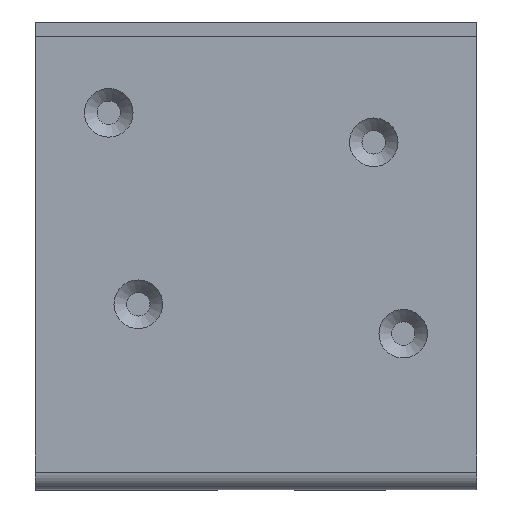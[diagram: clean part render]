
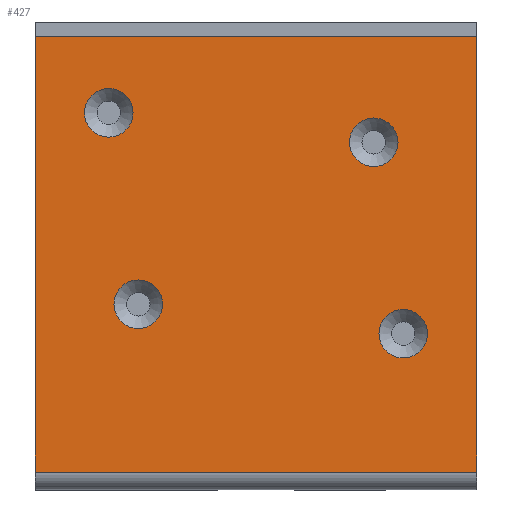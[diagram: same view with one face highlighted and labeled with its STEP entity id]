
A CAD part, top view. The second image highlights one B-rep face of the part: STEP entity #427.
In plain terms, the highlighted planar face has unit normal (0, 0, 1).
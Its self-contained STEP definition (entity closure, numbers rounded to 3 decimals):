
#27=FACE_BOUND('',#106,.T.);
#28=FACE_BOUND('',#107,.T.);
#29=FACE_BOUND('',#108,.T.);
#30=FACE_BOUND('',#109,.T.);
#47=CIRCLE('',#460,8.25);
#48=CIRCLE('',#461,8.25);
#49=CIRCLE('',#462,8.25);
#50=CIRCLE('',#463,8.25);
#79=FACE_OUTER_BOUND('',#105,.T.);
#105=EDGE_LOOP('',(#357,#358,#359,#360));
#106=EDGE_LOOP('',(#361));
#107=EDGE_LOOP('',(#362));
#108=EDGE_LOOP('',(#363));
#109=EDGE_LOOP('',(#364));
#153=LINE('',#661,#189);
#161=LINE('',#682,#197);
#164=LINE('',#688,#200);
#165=LINE('',#689,#201);
#189=VECTOR('',#524,150.);
#197=VECTOR('',#552,148.);
#200=VECTOR('',#557,148.);
#201=VECTOR('',#558,150.);
#221=VERTEX_POINT('',#658);
#222=VERTEX_POINT('',#660);
#225=VERTEX_POINT('',#681);
#227=VERTEX_POINT('',#687);
#228=VERTEX_POINT('',#690);
#229=VERTEX_POINT('',#692);
#230=VERTEX_POINT('',#694);
#231=VERTEX_POINT('',#696);
#262=EDGE_CURVE('',#222,#221,#153,.T.);
#273=EDGE_CURVE('',#222,#225,#161,.T.);
#276=EDGE_CURVE('',#227,#221,#164,.T.);
#277=EDGE_CURVE('',#225,#227,#165,.T.);
#278=EDGE_CURVE('',#228,#228,#47,.T.);
#279=EDGE_CURVE('',#229,#229,#48,.T.);
#280=EDGE_CURVE('',#230,#230,#49,.T.);
#281=EDGE_CURVE('',#231,#231,#50,.T.);
#357=ORIENTED_EDGE('',*,*,#262,.T.);
#358=ORIENTED_EDGE('',*,*,#276,.F.);
#359=ORIENTED_EDGE('',*,*,#277,.F.);
#360=ORIENTED_EDGE('',*,*,#273,.F.);
#361=ORIENTED_EDGE('',*,*,#278,.T.);
#362=ORIENTED_EDGE('',*,*,#279,.T.);
#363=ORIENTED_EDGE('',*,*,#280,.T.);
#364=ORIENTED_EDGE('',*,*,#281,.T.);
#409=PLANE('',#459);
#427=ADVANCED_FACE('',(#79,#27,#28,#29,#30),#409,.T.);
#459=AXIS2_PLACEMENT_3D('',#686,#555,#556);
#460=AXIS2_PLACEMENT_3D('',#691,#559,#560);
#461=AXIS2_PLACEMENT_3D('',#693,#561,#562);
#462=AXIS2_PLACEMENT_3D('',#695,#563,#564);
#463=AXIS2_PLACEMENT_3D('',#697,#565,#566);
#524=DIRECTION('',(1.,0.,0.));
#552=DIRECTION('',(0.,1.,0.));
#555=DIRECTION('center_axis',(0.,0.,1.));
#556=DIRECTION('ref_axis',(1.,0.,0.));
#557=DIRECTION('',(0.,-1.,0.));
#558=DIRECTION('',(1.,0.,0.));
#559=DIRECTION('center_axis',(0.,0.,-1.));
#560=DIRECTION('ref_axis',(1.,0.,0.));
#561=DIRECTION('center_axis',(0.,0.,-1.));
#562=DIRECTION('ref_axis',(1.,0.,0.));
#563=DIRECTION('center_axis',(0.,0.,-1.));
#564=DIRECTION('ref_axis',(1.,0.,0.));
#565=DIRECTION('center_axis',(0.,0.,-1.));
#566=DIRECTION('ref_axis',(1.,0.,0.));
#658=CARTESIAN_POINT('',(134.,-12.,5.));
#660=CARTESIAN_POINT('',(-16.,-12.,5.));
#661=CARTESIAN_POINT('',(21.5,-12.,5.));
#681=CARTESIAN_POINT('',(-16.,136.,5.));
#682=CARTESIAN_POINT('',(-16.,-18.,5.));
#686=CARTESIAN_POINT('Origin',(59.,59.,5.));
#687=CARTESIAN_POINT('',(134.,136.,5.));
#688=CARTESIAN_POINT('',(134.,136.,5.));
#689=CARTESIAN_POINT('',(-16.,136.,5.));
#690=CARTESIAN_POINT('',(17.25,110.,5.));
#691=CARTESIAN_POINT('Origin',(9.,110.,5.));
#692=CARTESIAN_POINT('',(107.25,100.,5.));
#693=CARTESIAN_POINT('Origin',(99.,100.,5.));
#694=CARTESIAN_POINT('',(117.25,35.,5.));
#695=CARTESIAN_POINT('Origin',(109.,35.,5.));
#696=CARTESIAN_POINT('',(27.25,45.,5.));
#697=CARTESIAN_POINT('Origin',(19.,45.,5.));
